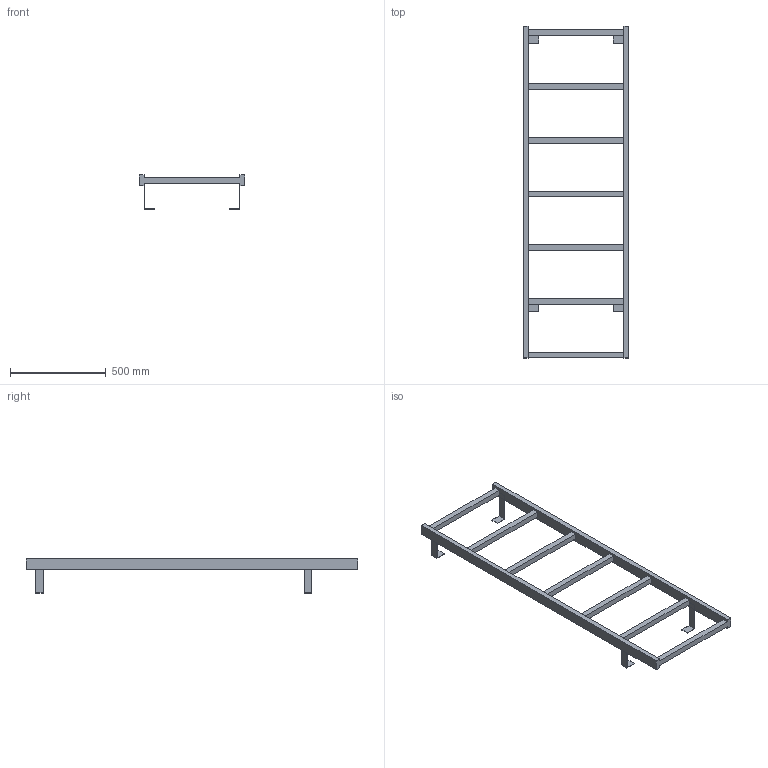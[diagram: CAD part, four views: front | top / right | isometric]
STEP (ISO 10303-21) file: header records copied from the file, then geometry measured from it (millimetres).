
FILE_DESCRIPTION((''),'2;1');
FILE_NAME('52311185','2024-10-17T13:42:10',('wep'),('HUBER SE'),'CREO PARAMETRIC BY PTC INC, 2022162','CREO PARAMETRIC BY PTC INC, 2022162','');
FILE_SCHEMA(('AUTOMOTIVE_DESIGN { 1 0 10303 214 1 1 1 1 }'));
Length unit declared in the file: millimetre
Products named in the file (1): 52311185
Bounding box: 550 x 1730 x 178.5 mm (x, y, z)
Volume: 8145460 mm3; surface area: 1040028 mm2
Topology: 1 solids, 1 shells, 70 faces, 204 edges, 132 vertices
Faces by surface type: plane 70
Entity records: 2845 total; most frequent: CARTESIAN_POINT 408, ORIENTED_EDGE 408, DIRECTION 344, VECTOR 204, LINE 204, EDGE_CURVE 204, VERTEX_POINT 132, COLOUR_RGB 106
